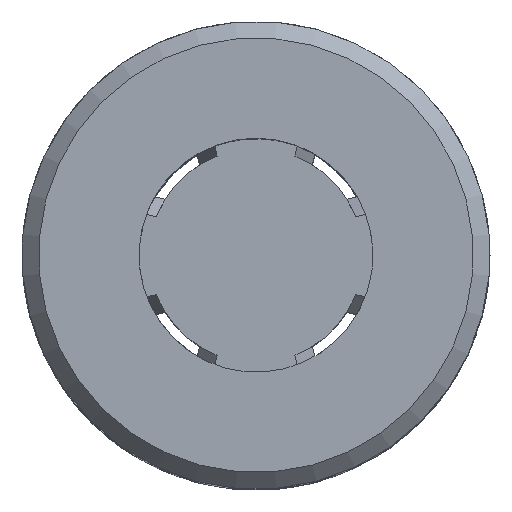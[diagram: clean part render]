
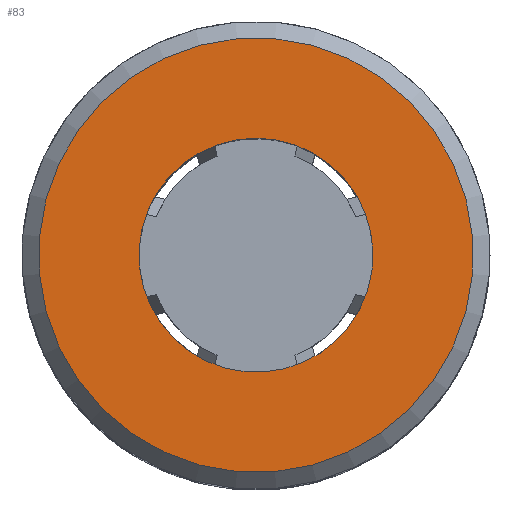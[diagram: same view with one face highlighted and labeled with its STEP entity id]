
A CAD part, top view. The second image highlights one B-rep face of the part: STEP entity #83.
In plain terms, the highlighted planar face has unit normal (0, 0, 1) as drawn and (0, 0, -1) by its records, which use the part's own axes.
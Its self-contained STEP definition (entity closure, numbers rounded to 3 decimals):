
#83 = ADVANCED_FACE( '', ( #166, #167 ), #168, .T. );
#166 = FACE_OUTER_BOUND( '', #260, .T. );
#167 = FACE_BOUND( '', #261, .T. );
#168 = PLANE( '', #262 );
#260 = EDGE_LOOP( '', ( #438 ) );
#261 = EDGE_LOOP( '', ( #439 ) );
#262 = AXIS2_PLACEMENT_3D( '', #440, #441, #442 );
#438 = ORIENTED_EDGE( '', *, *, #696, .T. );
#439 = ORIENTED_EDGE( '', *, *, #697, .T. );
#440 = CARTESIAN_POINT( '', ( 0., 0., 0. ) );
#441 = DIRECTION( '', ( 0., 0., -1. ) );
#442 = DIRECTION( '', ( 0., -1., 0. ) );
#696 = EDGE_CURVE( '', #894, #894, #895, .T. );
#697 = EDGE_CURVE( '', #896, #896, #897, .F. );
#894 = VERTEX_POINT( '', #1493 );
#895 = CIRCLE( '', #1494, 6.5 );
#896 = VERTEX_POINT( '', #1495 );
#897 = CIRCLE( '', #1496, 3.5 );
#1493 = CARTESIAN_POINT( '', ( -6.5, 0., 0. ) );
#1494 = AXIS2_PLACEMENT_3D( '', #1728, #1729, #1730 );
#1495 = CARTESIAN_POINT( '', ( -3.5, 0., 0. ) );
#1496 = AXIS2_PLACEMENT_3D( '', #1731, #1732, #1733 );
#1728 = CARTESIAN_POINT( '', ( 0., 0., 0. ) );
#1729 = DIRECTION( '', ( 0., 0., -1. ) );
#1730 = DIRECTION( '', ( -1., 0., 0. ) );
#1731 = CARTESIAN_POINT( '', ( 0., 0., 0. ) );
#1732 = DIRECTION( '', ( 0., 0., -1. ) );
#1733 = DIRECTION( '', ( -1., 0., 0. ) );
